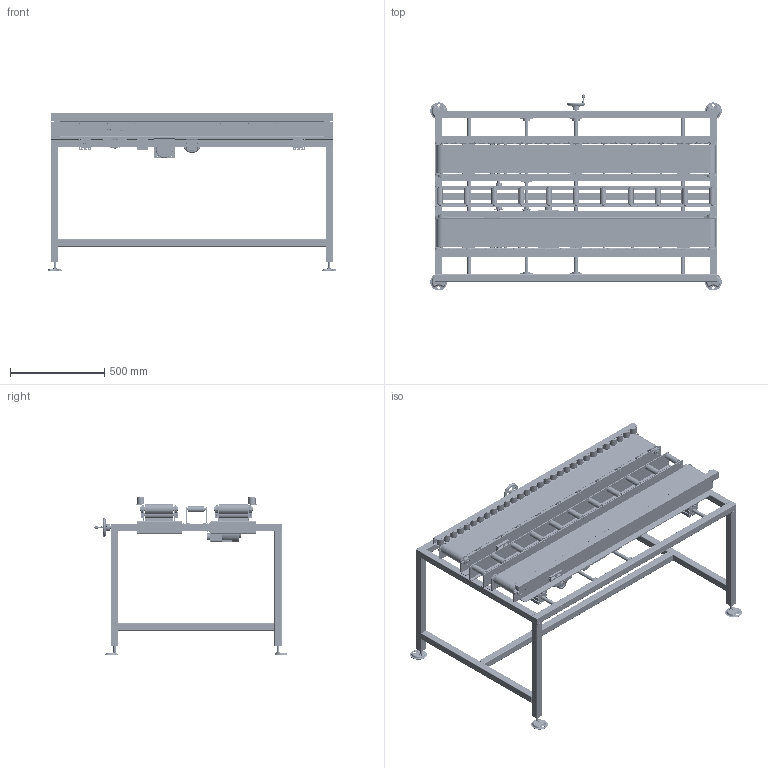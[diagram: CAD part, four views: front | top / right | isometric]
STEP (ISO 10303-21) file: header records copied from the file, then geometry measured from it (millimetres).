
FILE_DESCRIPTION(/* description */ (''),/* implementation_level */ '2;1');
FILE_NAME(/* name */ 'beltconveyor_a049_w500_l1500.stp',/* time_stamp */ '2024-12-22T14:07:19+08:00',/* author */ (''),/* organization */ (''),/* preprocessor_version */ 'ST-DEVELOPER v16.7',/* originating_system */ 'SIEMENS PLM Software NX 12.0',/* authorisation */ '');
FILE_SCHEMA (('AUTOMOTIVE_DESIGN { 1 0 10303 214 3 1 1 1 }'));
Products named in the file (51): 开合皮带线-直径32手推滚筒（中间）; 开合皮带线-直径32手推滚筒轴（中间）; 开合皮带线-35滚筒杆; 开合皮带线-35滚筒杆A; 样品GB_深沟球轴承_6002_60
02; 开合皮带线-35滚筒93098; 开合皮带线-35B_14T链轮B; GB／T276-94深沟球轴承6906; 开合皮带线-轴承座; 开合皮带线-直径32手推滚筒轴; 开合皮带线-直径32手推滚筒; 开合皮带线-1500折料; 零件4^开合皮带线-1; 开合皮带线-1500折料A; 开合皮带线-1500折料(中间）; 开合皮带线-TWT_40W马达; 开合皮带线-TWT_40W马达固定板; 开合皮带线-235B_18T链轮; 04.02AHLND100_10start; 04.02AHLND100_10_1; 开合皮带线-丝母固定连接板; 开合皮带线-35滚筒A; 镜向开合皮带线-1500折料; 开合皮带线-丝母固定板; 开合皮带线-调节板; 复件 零件4^镜向开合皮带线-
1; 开合皮带线-35B_14T链轮; 开合皮带线-流利条（小）; 开合皮带线-64X64方铝; 20直线轴承; 开合皮带线-滚筒; 镜向开合皮带线-1500折料A; 带立式座轴承UCP203[GB／T7
810-1995]; 开合皮带线-丝母; 开合皮带线-铁架_默认_
按加工_; 15啤令; 开合皮带线-丝杆; 2号脚杯; 开合皮带线-加硬芯; 开合皮带线-动力杆 ...
Assembly tree (126 placements, depth 4):
  beltconveyor_a049_w500_l1500
    开合皮带线-动力杆
    镜向开合皮带线-1
      开合皮带线-直径32手推滚筒6
3479  x9
        开合皮带线-直径32手推滚筒
        开合皮带线-直径32手推滚筒轴
      15啤令  x4
      开合皮带线-丝母
      开合皮带线-轴承座34392
        开合皮带线-轴承座
        GB／T276-94深沟球轴承6906  x2
        开合皮带线-35B_14T链轮B
      带立式座轴承UCP203[GB／T7
810-1995]  x2
      镜向开合皮带线-1500折料A
      开合皮带线-滚筒  x2
      20直线轴承  x4
      开合皮带线-64X64方铝  x2
      开合皮带线-35滚筒 - 副本
        开合皮带线-35滚筒93098
        样品GB_深沟球轴承_6002_60
02  x2
        开合皮带线-35滚筒杆A
      开合皮带线-流利条（小）
      开合皮带线-35B_14T链轮
      复件 零件4^镜向开合皮带线-
1
      开合皮带线-调节板  x2
      开合皮带线-丝母固定板
      镜向开合皮带线-1500折料
      开合皮带线-35滚筒A
      开合皮带线-丝母固定连接板
      开合皮带线-35滚筒
        样品GB_深沟球轴承_6002_60
02  x2
        开合皮带线-35滚筒93098
        开合皮带线-35滚筒杆
    开合皮带线-加硬芯  x2
    2号脚杯  x4
    开合皮带线-丝杆
    15啤令  x4
    04.02AHLND100_10_AHLND100-10
      04.02AHLND100_10_1
      04.02AHLND100_10start
    开合皮带线-马达
      开合皮带线-235B_18T链轮
      开合皮带线-TWT_40W马达固定板
      开合皮带线-TWT_40W马达
    开合皮带线-中间
      开合皮带线-直径32手推滚筒（中间）5
4163  x11
        开合皮带线-直径32手推滚筒轴（中间）
        开合皮带线-直径32手推滚筒（中间）
      开合皮带线-1500折料(中间）  x2
    开合皮带线-1
      开合皮带线-1500折料A
      开合皮带线-滚筒  x2
      开合皮带线-直径32手推滚筒6
3479  x9
        开合皮带线-直径32手推滚筒
        开合皮带线-直径32手推滚筒轴
      开合皮带线-35滚筒
        样品GB_深沟球轴承_6002_60
02  x2
        开合皮带线-35滚筒93098
        开合皮带线-35滚筒杆
      15啤令  x4
Bounding box: 1550 x 1046 x 840 mm (x, y, z)
Volume: 23600403.4 mm3; surface area: 11132959.5 mm2
Topology: 622 solids, 630 shells, 14125 faces, 38474 edges, 25226 vertices
Faces by surface type: plane 5129, extrusion 4059, cylinder 2340, torus 1160, sphere 752, cone 629, bspline 56
Full cylindrical faces by diameter (mm): 10.1 x11, 13.7 x22, 23 x22, 26.5 x22, 32 x11
Entity records: 113488 total; most frequent: CARTESIAN_POINT 32458, ORIENTED_EDGE 16494, DIRECTION 15032, EDGE_CURVE 8247, AXIS2_PLACEMENT_3D 5762, VERTEX_POINT 5427, EDGE_LOOP 3558, VECTOR 3508
